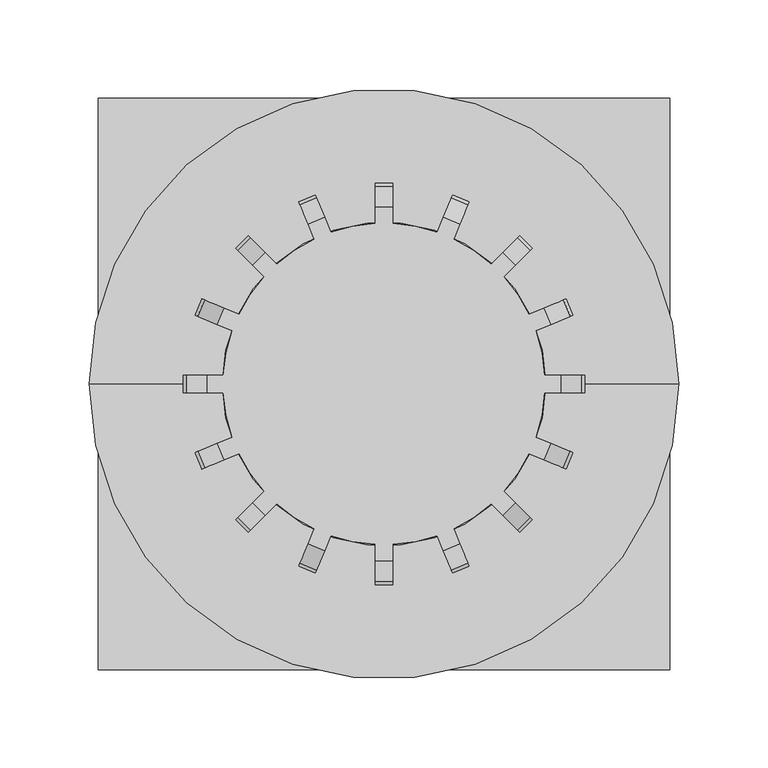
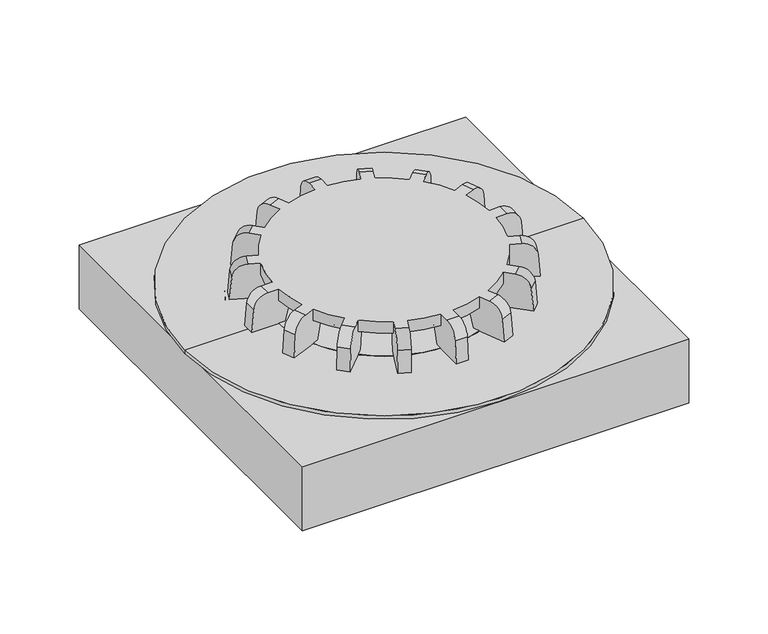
"""IFC4 building model written with IfcOpenShell, lengths in millimetres: flow terminal geometry, Pipelife - VRD - Wpust Hydromax z kołnierzem 75 : Pipelife - VRD - Wpust Hydromax z kołnierzem 75."""

from ifc_helpers import new_model, si_unit, point, frame, origin, origin_2d, place, context, project, spatial, polyline, circle_curve, ellipse_curve, trimmed, segment, composite_curve, outline, extrude, source, transform, mapped, element, save
from ifc_brep_helpers import plane_surface, cylinder_surface, revolved_surface, advanced_brep


def flow_terminal_c4a0d1e7(model_context):
    return source(origin(), model_context, "Body", "SolidModel", [
        extrude(outline(composite_curve([segment(trimmed(circle_curve(origin_2d(), 90.0), [point((0.0, -90.0))], [point((0.0, 90.0))], False, "CARTESIAN"), True, "CONTINUOUS"), segment(trimmed(circle_curve(origin_2d(), 90.0), [point((0.0, 90.0))], [point((0.0, -90.0))], False, "CARTESIAN"), True, "CONTINUOUS")], self_intersect=False)), frame((0.0, 0.0, -5.0), z_axis=(0.0, 0.0, 1.0), x_axis=(1.0, 0.0, 0.0)), (0.0, 0.0, 1.0), 5.0),
        advanced_brep(
        [(-89.4392053, 42.4588928, 30.0), (-93.2660396, 33.2200975, 30.0), (-84.9341593, 29.7689197, 30.0), (-89.8610038, 5.0, 30.0), (-98.879366, 5.0, 30.0), (-98.879366, -5.0, 30.0), (-89.8610038, -5.0, 30.0), (-84.9341593, -29.7689197, 30.0), (-93.2660396, -33.2200975, 30.0), (-89.4392053, -42.4588928, 30.0), (-81.107325, -39.007715, 30.0), (-67.076859, -60.0057912, 30.0), (-73.4538041, -66.3827363, 30.0), (-66.3827363, -73.4538041, 30.0), (-60.0057912, -67.076859, 30.0), (-39.007715, -81.107325, 30.0), (-42.4588928, -89.4392053, 30.0), (-33.2200975, -93.2660396, 30.0), (-29.7689197, -84.9341593, 30.0), (-5.0, -89.8610038, 30.0), (-5.0, -98.879366, 30.0), (5.0, -98.879366, 30.0), (5.0, -89.8610038, 30.0), (29.7689197, -84.9341593, 30.0), (33.2200975, -93.2660396, 30.0), (42.4588928, -89.4392053, 30.0), (39.007715, -81.107325, 30.0), (60.0057912, -67.076859, 30.0), (66.3827363, -73.4538041, 30.0), (73.4538041, -66.3827363, 30.0), (67.076859, -60.0057912, 30.0), (81.107325, -39.007715, 30.0), (89.4392053, -42.4588928, 30.0), (93.2660396, -33.2200975, 30.0), (84.9341593, -29.7689197, 30.0), (89.8610038, -5.0, 30.0), (98.879366, -5.0, 30.0), (98.879366, 5.0, 30.0), (89.8610038, 5.0, 30.0), (84.9341593, 29.7689197, 30.0), (93.2660396, 33.2200975, 30.0), (89.4392053, 42.4588928, 30.0), (81.107325, 39.007715, 30.0), (67.076859, 60.0057912, 30.0), (73.4538041, 66.3827363, 30.0), (66.3827363, 73.4538041, 30.0), (60.0057912, 67.076859, 30.0), (39.007715, 81.107325, 30.0), (42.4588928, 89.4392053, 30.0), (33.2200975, 93.2660396, 30.0), (29.7689197, 84.9341593, 30.0), (5.0, 89.8610038, 30.0), (5.0, 98.879366, 30.0), (-5.0, 98.879366, 30.0), (-5.0, 89.8610038, 30.0), (-29.7689197, 84.9341593, 30.0), (-33.2200975, 93.2660396, 30.0), (-42.4588928, 89.4392053, 30.0), (-39.007715, 81.107325, 30.0), (-60.0057912, 67.076859, 30.0), (-66.3827363, 73.4538041, 30.0), (-73.4538041, 66.3827363, 30.0), (-67.076859, 60.0057912, 30.0), (-81.107325, 39.007715, 30.0), (-78.9260419, 38.104198, 20.0), (-81.107325, 39.007715, 20.0), (-67.076859, 60.0057912, 20.0), (-65.4073773, 58.3363094, 20.0), (-59.8502365, 52.7791687, 20.0), (-52.7791687, 59.8502365, 20.0), (-58.3363094, 65.4073773, 20.0), (-60.0057912, 67.076859, 20.0), (-39.007715, 81.107325, 20.0), (-38.104198, 78.9260419, 20.0), (-35.0966951, 71.6652876, 20.0), (-25.8578998, 75.4921219, 20.0), (-28.8654027, 82.7528763, 20.0), (-29.7689197, 84.9341593, 20.0), (-5.0, 89.8610038, 20.0), (-5.0, 87.5, 20.0), (-5.0, 79.6410162, 20.0), (5.0, 79.6410162, 20.0), (5.0, 87.5, 20.0), (5.0, 89.8610038, 20.0), (29.7689197, 84.9341593, 20.0), (28.8654027, 82.7528763, 20.0), (25.8578998, 75.4921219, 20.0), (35.0966951, 71.6652876, 20.0), (38.104198, 78.9260419, 20.0), (39.007715, 81.107325, 20.0), (60.0057912, 67.076859, 20.0), (58.3363094, 65.4073773, 20.0), (52.7791687, 59.8502365, 20.0), (59.8502365, 52.7791687, 20.0), (65.4073773, 58.3363094, 20.0), (67.076859, 60.0057912, 20.0), (81.107325, 39.007715, 20.0), (78.9260419, 38.104198, 20.0), (71.6652876, 35.0966951, 20.0), (75.4921219, 25.8578998, 20.0), (82.7528763, 28.8654027, 20.0), (84.9341593, 29.7689197, 20.0), (89.8610038, 5.0, 20.0), (87.5, 5.0, 20.0), (79.6410162, 5.0, 20.0), (79.6410162, -5.0, 20.0), (87.5, -5.0, 20.0), (89.8610038, -5.0, 20.0), (84.9341593, -29.7689197, 20.0), (82.7528763, -28.8654027, 20.0), (75.4921219, -25.8578998, 20.0), (71.6652876, -35.0966951, 20.0), (78.9260419, -38.104198, 20.0), (81.107325, -39.007715, 20.0), (67.076859, -60.0057912, 20.0), (65.4073773, -58.3363094, 20.0), (59.8502365, -52.7791687, 20.0), (52.7791687, -59.8502365, 20.0), (58.3363094, -65.4073773, 20.0), (60.0057912, -67.076859, 20.0), (39.007715, -81.107325, 20.0), (38.104198, -78.9260419, 20.0), (35.0966951, -71.6652876, 20.0), (25.8578998, -75.4921219, 20.0), (28.8654027, -82.7528763, 20.0), (29.7689197, -84.9341593, 20.0), (5.0, -89.8610038, 20.0), (5.0, -87.5, 20.0), (5.0, -79.6410162, 20.0), (-5.0, -79.6410162, 20.0), (-5.0, -87.5, 20.0), (-5.0, -89.8610038, 20.0), (-29.7689197, -84.9341593, 20.0), (-28.8654027, -82.7528763, 20.0), (-25.8578998, -75.4921219, 20.0), (-35.0966951, -71.6652876, 20.0), (-38.104198, -78.9260419, 20.0), (-39.007715, -81.107325, 20.0), (-60.0057912, -67.076859, 20.0), (-58.3363094, -65.4073773, 20.0), (-52.7791687, -59.8502365, 20.0), (-59.8502365, -52.7791687, 20.0), (-65.4073773, -58.3363094, 20.0), (-67.076859, -60.0057912, 20.0), (-81.107325, -39.007715, 20.0), (-78.9260419, -38.104198, 20.0), (-71.6652876, -35.0966951, 20.0), (-75.4921219, -25.8578998, 20.0), (-82.7528763, -28.8654027, 20.0), (-84.9341593, -29.7689197, 20.0), (-89.8610038, -5.0, 20.0), (-87.5, -5.0, 20.0), (-79.6410162, -5.0, 20.0), (-79.6410162, 5.0, 20.0), (-87.5, 5.0, 20.0), (-89.8610038, 5.0, 20.0), (-84.9341593, 29.7689197, 20.0), (-82.7528763, 28.8654027, 20.0), (-75.4921219, 25.8578998, 20.0), (-71.6652876, 35.0966951, 20.0), (-100.483572, 47.0336193, 19.0458689), (-76.6163431, 37.1474894, 0.0), (-102.0230302, 47.6712838, 0.0), (-104.3104063, 37.794824, 19.0458689), (-105.8498646, 38.4324885, 0.0), (-80.4431774, 27.9086941, 0.0), (-110.8337024, -5.0, 19.0458689), (-112.5, -5.0, 0.0), (-85.0, -5.0, 0.0), (-110.8337024, 5.0, 19.0458689), (-85.0, 5.0, 0.0), (-112.5, 5.0, 0.0), (-100.483572, -47.0336193, 19.0458689), (-102.0230302, -47.6712838, 0.0), (-76.6163431, -37.1474894, 0.0), (-104.3104063, -37.794824, 19.0458689), (-80.4431774, -27.9086941, 0.0), (-105.8498646, -38.4324885, 0.0), (-74.8357286, -81.9067964, 19.0458689), (-76.013979, -83.0850468, 0.0), (-56.5685425, -63.6396103, 0.0), (-81.9067964, -74.8357286, 19.0458689), (-63.6396103, -56.5685425, 0.0), (-83.0850468, -76.013979, 0.0), (-47.0336193, -100.483572, 19.0458689), (-37.1474894, -76.6163431, 0.0), (-47.6712838, -102.0230302, 0.0), (-37.794824, -104.3104063, 19.0458689), (-38.4324885, -105.8498646, 0.0), (-27.9086941, -80.4431774, 0.0), (5.0, -110.8337024, 19.0458689), (5.0, -112.5, 0.0), (5.0, -85.0, 0.0), (-5.0, -110.8337024, 19.0458689), (-5.0, -85.0, 0.0), (-5.0, -112.5, 0.0), (47.0336193, -100.483572, 19.0458689), (47.6712838, -102.0230302, 0.0), (37.1474894, -76.6163431, 0.0), (37.794824, -104.3104063, 19.0458689), (27.9086941, -80.4431774, 0.0), (38.4324885, -105.8498646, 0.0), (74.8357286, -81.9067964, 19.0458689), (56.5685425, -63.6396103, 0.0), (76.013979, -83.0850468, 0.0), (81.9067964, -74.8357286, 19.0458689), (83.0850468, -76.013979, 0.0), (63.6396103, -56.5685425, 0.0), (100.483572, -47.0336193, 19.0458689), (76.6163431, -37.1474894, 0.0), (102.0230302, -47.6712838, 0.0), (104.3104063, -37.794824, 19.0458689), (105.8498646, -38.4324885, 0.0), (80.4431774, -27.9086941, 0.0), (110.8337024, -5.0, 19.0458689), (85.0, -5.0, 0.0), (112.5, -5.0, 0.0), (110.8337024, 5.0, 19.0458689), (112.5, 5.0, 0.0), (85.0, 5.0, 0.0), (100.483572, 47.0336193, 19.0458689), (102.0230302, 47.6712838, 0.0), (76.6163431, 37.1474894, 0.0), (104.3104063, 37.794824, 19.0458689), (80.4431774, 27.9086941, 0.0), (105.8498646, 38.4324885, 0.0), (74.8357286, 81.9067964, 19.0458689), (76.013979, 83.0850468, 0.0), (56.5685425, 63.6396103, 0.0), (81.9067964, 74.8357286, 19.0458689), (63.6396103, 56.5685425, 0.0), (83.0850468, 76.013979, 0.0), (47.0336193, 100.483572, 19.0458689), (37.1474894, 76.6163431, 0.0), (47.6712838, 102.0230302, 0.0), (37.794824, 104.3104063, 19.0458689), (38.4324885, 105.8498646, 0.0), (27.9086941, 80.4431774, 0.0), (5.0, 110.8337024, 19.0458689), (5.0, 85.0, 0.0), (5.0, 112.5, 0.0), (-5.0, 110.8337024, 19.0458689), (-5.0, 112.5, 0.0), (-5.0, 85.0, 0.0), (-47.0336193, 100.483572, 19.0458689), (-47.6712838, 102.0230302, 0.0), (-37.1474894, 76.6163431, 0.0), (-37.794824, 104.3104063, 19.0458689), (-27.9086941, 80.4431774, 0.0), (-38.4324885, 105.8498646, 0.0), (-74.8357286, 81.9067964, 19.0458689), (-56.5685425, 63.6396103, 0.0), (-76.013979, 83.0850468, 0.0), (-81.9067964, 74.8357286, 19.0458689), (-83.0850468, 76.013979, 0.0), (-63.6396103, 56.5685425, 0.0)],
        [
            (0, 1),
            (1, 2),
            (2, 3, circle_curve(frame((0.0, 0.0, 30.0), z_axis=(0.0, 0.0, 1.0), x_axis=(0.0, 1.0, 0.0)), 90.0)),
            (3, 4),
            (4, 5),
            (5, 6),
            (6, 7, circle_curve(frame((0.0, 0.0, 30.0), z_axis=(0.0, 0.0, 1.0), x_axis=(0.0, 1.0, 0.0)), 90.0)),
            (7, 8),
            (8, 9),
            (9, 10),
            (10, 11, circle_curve(frame((0.0, 0.0, 30.0), z_axis=(0.0, 0.0, 1.0), x_axis=(0.0, 1.0, 0.0)), 90.0)),
            (11, 12),
            (12, 13),
            (13, 14),
            (14, 15, circle_curve(frame((0.0, 0.0, 30.0), z_axis=(0.0, 0.0, 1.0), x_axis=(0.0, 1.0, 0.0)), 90.0)),
            (15, 16),
            (16, 17),
            (17, 18),
            (18, 19, circle_curve(frame((0.0, 0.0, 30.0), z_axis=(0.0, 0.0, 1.0), x_axis=(0.0, 1.0, 0.0)), 90.0)),
            (19, 20),
            (20, 21),
            (21, 22),
            (22, 23, circle_curve(frame((0.0, 0.0, 30.0), z_axis=(0.0, 0.0, 1.0), x_axis=(0.0, 1.0, 0.0)), 90.0)),
            (23, 24),
            (24, 25),
            (25, 26),
            (26, 27, circle_curve(frame((0.0, 0.0, 30.0), z_axis=(0.0, 0.0, 1.0), x_axis=(0.0, 1.0, 0.0)), 90.0)),
            (27, 28),
            (28, 29),
            (29, 30),
            (30, 31, circle_curve(frame((0.0, 0.0, 30.0), z_axis=(0.0, 0.0, 1.0), x_axis=(0.0, 1.0, 0.0)), 90.0)),
            (31, 32),
            (32, 33),
            (33, 34),
            (34, 35, circle_curve(frame((0.0, 0.0, 30.0), z_axis=(0.0, 0.0, 1.0), x_axis=(0.0, 1.0, 0.0)), 90.0)),
            (35, 36),
            (36, 37),
            (37, 38),
            (38, 39, circle_curve(frame((0.0, 0.0, 30.0), z_axis=(0.0, 0.0, 1.0), x_axis=(0.0, 1.0, 0.0)), 90.0)),
            (39, 40),
            (40, 41),
            (41, 42),
            (42, 43, circle_curve(frame((0.0, 0.0, 30.0), z_axis=(0.0, 0.0, 1.0), x_axis=(0.0, 1.0, 0.0)), 90.0)),
            (43, 44),
            (44, 45),
            (45, 46),
            (46, 47, circle_curve(frame((0.0, 0.0, 30.0), z_axis=(0.0, 0.0, 1.0), x_axis=(0.0, 1.0, 0.0)), 90.0)),
            (47, 48),
            (48, 49),
            (49, 50),
            (50, 51, circle_curve(frame((0.0, 0.0, 30.0), z_axis=(0.0, 0.0, 1.0), x_axis=(0.0, 1.0, 0.0)), 90.0)),
            (51, 52),
            (52, 53),
            (53, 54),
            (54, 55, circle_curve(frame((0.0, 0.0, 30.0), z_axis=(0.0, 0.0, 1.0), x_axis=(0.0, 1.0, 0.0)), 90.0)),
            (55, 56),
            (56, 57),
            (57, 58),
            (58, 59, circle_curve(frame((0.0, 0.0, 30.0), z_axis=(0.0, 0.0, 1.0), x_axis=(0.0, 1.0, 0.0)), 90.0)),
            (59, 60),
            (60, 61),
            (61, 62),
            (62, 63, circle_curve(frame((0.0, 0.0, 30.0), z_axis=(0.0, 0.0, 1.0), x_axis=(0.0, 1.0, 0.0)), 90.0)),
            (63, 0),
            (64, 65),
            (65, 66, circle_curve(frame((0.0, 0.0, 20.0), z_axis=(0.0, 0.0, -1.0), x_axis=(0.0, 1.0, 0.0)), 90.0)),
            (66, 67),
            (67, 68),
            (68, 69),
            (69, 70),
            (70, 71),
            (71, 72, circle_curve(frame((0.0, 0.0, 20.0), z_axis=(0.0, 0.0, -1.0), x_axis=(0.0, 1.0, 0.0)), 90.0)),
            (72, 73),
            (73, 74),
            (74, 75),
            (75, 76),
            (76, 77),
            (77, 78, circle_curve(frame((0.0, 0.0, 20.0), z_axis=(0.0, 0.0, -1.0), x_axis=(0.0, 1.0, 0.0)), 90.0)),
            (78, 79),
            (79, 80),
            (80, 81),
            (81, 82),
            (82, 83),
            (83, 84, circle_curve(frame((0.0, 0.0, 20.0), z_axis=(0.0, 0.0, -1.0), x_axis=(0.0, 1.0, 0.0)), 90.0)),
            (84, 85),
            (85, 86),
            (86, 87),
            (87, 88),
            (88, 89),
            (89, 90, circle_curve(frame((0.0, 0.0, 20.0), z_axis=(0.0, 0.0, -1.0), x_axis=(0.0, 1.0, 0.0)), 90.0)),
            (90, 91),
            (91, 92),
            (92, 93),
            (93, 94),
            (94, 95),
            (95, 96, circle_curve(frame((0.0, 0.0, 20.0), z_axis=(0.0, 0.0, -1.0), x_axis=(0.0, 1.0, 0.0)), 90.0)),
            (96, 97),
            (97, 98),
            (98, 99),
            (99, 100),
            (100, 101),
            (101, 102, circle_curve(frame((0.0, 0.0, 20.0), z_axis=(0.0, 0.0, -1.0), x_axis=(0.0, 1.0, 0.0)), 90.0)),
            (102, 103),
            (103, 104),
            (104, 105),
            (105, 106),
            (106, 107),
            (107, 108, circle_curve(frame((0.0, 0.0, 20.0), z_axis=(0.0, 0.0, -1.0), x_axis=(0.0, 1.0, 0.0)), 90.0)),
            (108, 109),
            (109, 110),
            (110, 111),
            (111, 112),
            (112, 113),
            (113, 114, circle_curve(frame((0.0, 0.0, 20.0), z_axis=(0.0, 0.0, -1.0), x_axis=(0.0, 1.0, 0.0)), 90.0)),
            (114, 115),
            (115, 116),
            (116, 117),
            (117, 118),
            (118, 119),
            (119, 120, circle_curve(frame((0.0, 0.0, 20.0), z_axis=(0.0, 0.0, -1.0), x_axis=(0.0, 1.0, 0.0)), 90.0)),
            (120, 121),
            (121, 122),
            (122, 123),
            (123, 124),
            (124, 125),
            (125, 126, circle_curve(frame((0.0, 0.0, 20.0), z_axis=(0.0, 0.0, -1.0), x_axis=(0.0, 1.0, 0.0)), 90.0)),
            (126, 127),
            (127, 128),
            (128, 129),
            (129, 130),
            (130, 131),
            (131, 132, circle_curve(frame((0.0, 0.0, 20.0), z_axis=(0.0, 0.0, -1.0), x_axis=(0.0, 1.0, 0.0)), 90.0)),
            (132, 133),
            (133, 134),
            (134, 135),
            (135, 136),
            (136, 137),
            (137, 138, circle_curve(frame((0.0, 0.0, 20.0), z_axis=(0.0, 0.0, -1.0), x_axis=(0.0, 1.0, 0.0)), 90.0)),
            (138, 139),
            (139, 140),
            (140, 141),
            (141, 142),
            (142, 143),
            (143, 144, circle_curve(frame((0.0, 0.0, 20.0), z_axis=(0.0, 0.0, -1.0), x_axis=(0.0, 1.0, 0.0)), 90.0)),
            (144, 145),
            (145, 146),
            (146, 147),
            (147, 148),
            (148, 149),
            (149, 150, circle_curve(frame((0.0, 0.0, 20.0), z_axis=(0.0, 0.0, -1.0), x_axis=(0.0, 1.0, 0.0)), 90.0)),
            (150, 151),
            (151, 152),
            (152, 153),
            (153, 154),
            (154, 155),
            (155, 156, circle_curve(frame((0.0, 0.0, 20.0), z_axis=(0.0, 0.0, -1.0), x_axis=(0.0, 1.0, 0.0)), 90.0)),
            (156, 157),
            (157, 158),
            (158, 159),
            (159, 64),
            (22, 126),
            (125, 23),
            (26, 120),
            (119, 27),
            (30, 114),
            (113, 31),
            (34, 108),
            (107, 35),
            (38, 102),
            (101, 39),
            (42, 96),
            (95, 43),
            (46, 90),
            (89, 47),
            (50, 84),
            (83, 51),
            (65, 63),
            (62, 66),
            (2, 156),
            (155, 3),
            (6, 150),
            (149, 7),
            (10, 144),
            (143, 11),
            (14, 138),
            (137, 15),
            (18, 132),
            (131, 19),
            (54, 78),
            (77, 55),
            (58, 72),
            (71, 59),
            (160, 0, circle_curve(frame((-89.4392053, 42.4588928, 18.0), z_axis=(0.3826834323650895, 0.9238795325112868, 0.0), x_axis=(0.9238795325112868, -0.3826834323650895, 0.0)), 12.0)),
            (159, 161),
            (161, 162),
            (162, 160),
            (163, 164),
            (164, 165),
            (165, 158),
            (1, 163, circle_curve(frame((-93.2660396, 33.2200975, 18.0), z_axis=(-0.3826834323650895, -0.9238795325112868, 0.0), x_axis=(0.9238795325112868, -0.3826834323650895, 0.0)), 12.0)),
            (162, 164),
            (163, 160),
            (161, 165),
            (166, 167),
            (167, 168),
            (168, 152),
            (5, 166, circle_curve(frame((-98.879366, -5.0, 18.0), z_axis=(0.0, -1.0, 0.0), x_axis=(1.0, 0.0, 0.0)), 12.0)),
            (169, 4, circle_curve(frame((-98.879366, 5.0, 18.0), z_axis=(0.0, 1.0, 0.0), x_axis=(1.0, 0.0, 0.0)), 12.0)),
            (153, 170),
            (170, 171),
            (171, 169),
            (166, 169),
            (171, 167),
            (170, 168),
            (172, 173),
            (173, 174),
            (174, 146),
            (9, 172, circle_curve(frame((-89.4392053, -42.4588928, 18.0), z_axis=(0.3826834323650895, -0.9238795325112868, 0.0), x_axis=(0.9238795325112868, 0.3826834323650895, 0.0)), 12.0)),
            (175, 8, circle_curve(frame((-93.2660396, -33.2200975, 18.0), z_axis=(-0.3826834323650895, 0.9238795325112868, 0.0), x_axis=(0.9238795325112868, 0.3826834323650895, 0.0)), 12.0)),
            (147, 176),
            (176, 177),
            (177, 175),
            (172, 175),
            (177, 173),
            (176, 174),
            (178, 179),
            (179, 180),
            (180, 140),
            (13, 178, circle_curve(frame((-66.3827363, -73.4538041, 18.0), z_axis=(0.707106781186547, -0.7071067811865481, 0.0), x_axis=(0.7071067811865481, 0.707106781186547, 0.0)), 12.0)),
            (181, 12, circle_curve(frame((-73.4538041, -66.3827363, 18.0), z_axis=(-0.707106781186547, 0.7071067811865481, 0.0), x_axis=(0.7071067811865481, 0.707106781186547, 0.0)), 12.0)),
            (141, 182),
            (182, 183),
            (183, 181),
            (178, 181),
            (183, 179),
            (182, 180),
            (184, 16, circle_curve(frame((-42.4588928, -89.4392053, 18.0), z_axis=(-0.9238795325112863, 0.38268343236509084, 0.0), x_axis=(0.38268343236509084, 0.9238795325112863, 0.0)), 12.0)),
            (135, 185),
            (185, 186),
            (186, 184),
            (187, 188),
            (188, 189),
            (189, 134),
            (17, 187, circle_curve(frame((-33.2200975, -93.2660396, 18.0), z_axis=(0.9238795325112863, -0.38268343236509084, 0.0), x_axis=(0.38268343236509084, 0.9238795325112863, 0.0)), 12.0)),
            (186, 188),
            (187, 184),
            (185, 189),
            (190, 191),
            (191, 192),
            (192, 128),
            (21, 190, circle_curve(frame((5.0, -98.879366, 18.0), z_axis=(1.0, 0.0, 0.0), x_axis=(0.0, 1.0, 0.0)), 12.0)),
            (193, 20, circle_curve(frame((-5.0, -98.879366, 18.0), z_axis=(-1.0, 0.0, 0.0), x_axis=(0.0, 1.0, 0.0)), 12.0)),
            (129, 194),
            (194, 195),
            (195, 193),
            (190, 193),
            (195, 191),
            (194, 192),
            (196, 197),
            (197, 198),
            (198, 122),
            (25, 196, circle_curve(frame((42.4588928, -89.4392053, 18.0), z_axis=(0.9238795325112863, 0.38268343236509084, 0.0), x_axis=(-0.38268343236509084, 0.9238795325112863, 0.0)), 12.0)),
            (199, 24, circle_curve(frame((33.2200975, -93.2660396, 18.0), z_axis=(-0.9238795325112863, -0.38268343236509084, 0.0), x_axis=(-0.38268343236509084, 0.9238795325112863, 0.0)), 12.0)),
            (123, 200),
            (200, 201),
            (201, 199),
            (196, 199),
            (201, 197),
            (200, 198),
            (202, 28, circle_curve(frame((66.3827363, -73.4538041, 18.0), z_axis=(-0.707106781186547, -0.7071067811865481, 0.0), x_axis=(-0.7071067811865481, 0.707106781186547, 0.0)), 12.0)),
            (117, 203),
            (203, 204),
            (204, 202),
            (205, 206),
            (206, 207),
            (207, 116),
            (29, 205, circle_curve(frame((73.4538041, -66.3827363, 18.0), z_axis=(0.707106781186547, 0.7071067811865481, 0.0), x_axis=(-0.7071067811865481, 0.707106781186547, 0.0)), 12.0)),
            (204, 206),
            (205, 202),
            (203, 207),
            (208, 32, circle_curve(frame((89.4392053, -42.4588928, 18.0), z_axis=(-0.3826834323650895, -0.9238795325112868, 0.0), x_axis=(-0.9238795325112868, 0.3826834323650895, 0.0)), 12.0)),
            (111, 209),
            (209, 210),
            (210, 208),
            (211, 212),
            (212, 213),
            (213, 110),
            (33, 211, circle_curve(frame((93.2660396, -33.2200975, 18.0), z_axis=(0.3826834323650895, 0.9238795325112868, 0.0), x_axis=(-0.9238795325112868, 0.3826834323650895, 0.0)), 12.0)),
            (210, 212),
            (211, 208),
            (209, 213),
            (214, 36, circle_curve(frame((98.879366, -5.0, 18.0), z_axis=(0.0, -1.0, 0.0), x_axis=(-1.0, 0.0, 0.0)), 12.0)),
            (105, 215),
            (215, 216),
            (216, 214),
            (217, 218),
            (218, 219),
            (219, 104),
            (37, 217, circle_curve(frame((98.879366, 5.0, 18.0), z_axis=(0.0, 1.0, 0.0), x_axis=(-1.0, 0.0, 0.0)), 12.0)),
            (216, 218),
            (217, 214),
            (215, 219),
            (220, 221),
            (221, 222),
            (222, 98),
            (41, 220, circle_curve(frame((89.4392053, 42.4588928, 18.0), z_axis=(-0.3826834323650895, 0.9238795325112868, 0.0), x_axis=(-0.9238795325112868, -0.3826834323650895, 0.0)), 12.0)),
            (223, 40, circle_curve(frame((93.2660396, 33.2200975, 18.0), z_axis=(0.3826834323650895, -0.9238795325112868, 0.0), x_axis=(-0.9238795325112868, -0.3826834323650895, 0.0)), 12.0)),
            (99, 224),
            (224, 225),
            (225, 223),
            (220, 223),
            (225, 221),
            (224, 222),
            (226, 227),
            (227, 228),
            (228, 92),
            (45, 226, circle_curve(frame((66.3827363, 73.4538041, 18.0), z_axis=(-0.707106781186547, 0.7071067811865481, 0.0), x_axis=(-0.7071067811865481, -0.707106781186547, 0.0)), 12.0)),
            (229, 44, circle_curve(frame((73.4538041, 66.3827363, 18.0), z_axis=(0.707106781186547, -0.7071067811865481, 0.0), x_axis=(-0.7071067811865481, -0.707106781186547, 0.0)), 12.0)),
            (93, 230),
            (230, 231),
            (231, 229),
            (226, 229),
            (231, 227),
            (230, 228),
            (232, 48, circle_curve(frame((42.4588928, 89.4392053, 18.0), z_axis=(0.9238795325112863, -0.38268343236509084, 0.0), x_axis=(-0.38268343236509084, -0.9238795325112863, 0.0)), 12.0)),
            (87, 233),
            (233, 234),
            (234, 232),
            (235, 236),
            (236, 237),
            (237, 86),
            (49, 235, circle_curve(frame((33.2200975, 93.2660396, 18.0), z_axis=(-0.9238795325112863, 0.38268343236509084, 0.0), x_axis=(-0.38268343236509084, -0.9238795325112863, 0.0)), 12.0)),
            (234, 236),
            (235, 232),
            (233, 237),
            (238, 52, circle_curve(frame((5.0, 98.879366, 18.0), z_axis=(1.0, 0.0, 0.0), x_axis=(0.0, -1.0, 0.0)), 12.0)),
            (81, 239),
            (239, 240),
            (240, 238),
            (241, 242),
            (242, 243),
            (243, 80),
            (53, 241, circle_curve(frame((-5.0, 98.879366, 18.0), z_axis=(-1.0, 0.0, 0.0), x_axis=(0.0, -1.0, 0.0)), 12.0)),
            (240, 242),
            (241, 238),
            (239, 243),
            (244, 245),
            (245, 246),
            (246, 74),
            (57, 244, circle_curve(frame((-42.4588928, 89.4392053, 18.0), z_axis=(-0.9238795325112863, -0.38268343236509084, 0.0), x_axis=(0.38268343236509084, -0.9238795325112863, 0.0)), 12.0)),
            (247, 56, circle_curve(frame((-33.2200975, 93.2660396, 18.0), z_axis=(0.9238795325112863, 0.38268343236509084, 0.0), x_axis=(0.38268343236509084, -0.9238795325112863, 0.0)), 12.0)),
            (75, 248),
            (248, 249),
            (249, 247),
            (244, 247),
            (249, 245),
            (248, 246),
            (250, 60, circle_curve(frame((-66.3827363, 73.4538041, 18.0), z_axis=(0.707106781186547, 0.7071067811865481, 0.0), x_axis=(0.7071067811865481, -0.707106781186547, 0.0)), 12.0)),
            (69, 251),
            (251, 252),
            (252, 250),
            (253, 254),
            (254, 255),
            (255, 68),
            (61, 253, circle_curve(frame((-73.4538041, 66.3827363, 18.0), z_axis=(-0.707106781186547, -0.7071067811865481, 0.0), x_axis=(0.7071067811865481, -0.707106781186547, 0.0)), 12.0)),
            (252, 254),
            (253, 250),
            (251, 255),
        ],
        [
            plane_surface(frame((0.0, 90.0, 30.0), z_axis=(0.0, 0.0, 1.0), x_axis=(-1.0, 0.0, 0.0))),
            plane_surface(frame((0.0, 90.0, 20.0), z_axis=(0.0, 0.0, -1.0), x_axis=(1.0, 0.0, 0.0))),
            cylinder_surface(frame((0.0, 0.0, 20.0), z_axis=(0.0, 0.0, 1.0), x_axis=(0.0, 1.0, 0.0)), 90.0),
            plane_surface(frame((-78.3526509, 37.8666916, 18.0), z_axis=(0.3826834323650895, 0.923879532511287, 0.0), x_axis=(0.0, 0.0, -1.0))),
            plane_surface(frame((-82.1794852, 28.6278963, 18.0), z_axis=(-0.3826834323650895, -0.923879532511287, 0.0), x_axis=(0.0, 0.0, 1.0))),
            plane_surface(frame((-102.0230302, 47.6712838, 0.0), z_axis=(-0.9203638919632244, 0.38122720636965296, 0.08715574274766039), x_axis=(-0.3826834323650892, -0.923879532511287, 0.0))),
            plane_surface(frame((-76.6163431, 37.1474894, 0.0), z_axis=(0.0, 0.0, -1.0), x_axis=(-0.3826834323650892, -0.923879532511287, 0.0))),
            plane_surface(frame((-71.6652876, 35.0966951, 20.0), z_axis=(0.8923991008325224, -0.36964381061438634, -0.25881904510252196), x_axis=(-0.3826834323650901, -0.9238795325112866, 0.0))),
            cylinder_surface(frame((-93.2660396, 33.2200975, 18.0), z_axis=(0.3826834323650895, 0.9238795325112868, 0.0), x_axis=(0.9238795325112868, -0.3826834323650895, 0.0)), 12.0),
            plane_surface(frame((-112.5, -5.0, 0.0), z_axis=(0.0, -1.0, 0.0), x_axis=(-0.08715574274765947, 0.0, -0.9961946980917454))),
            plane_surface(frame((-112.5, 5.0, 0.0), z_axis=(0.0, 1.0, 0.0), x_axis=(0.08715574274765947, 0.0, 0.9961946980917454))),
            plane_surface(frame((-110.8337024, -5.0, 19.0458689), z_axis=(-0.9961946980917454, 0.0, 0.08715574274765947), x_axis=(0.0, 1.0, 0.0))),
            plane_surface(frame((-112.5, -5.0, 0.0), z_axis=(0.0, 0.0, -1.0), x_axis=(0.0, 1.0, 0.0))),
            plane_surface(frame((-85.0, -5.0, 0.0), z_axis=(0.9659258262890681, 0.0, -0.2588190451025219), x_axis=(0.0, 1.0, 0.0))),
            cylinder_surface(frame((-98.879366, 5.0, 18.0), z_axis=(0.0, -1.0, 0.0), x_axis=(1.0, 0.0, 0.0)), 12.0),
            plane_surface(frame((-102.0230302, -47.6712838, 0.0), z_axis=(0.3826834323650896, -0.9238795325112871, 0.0), x_axis=(-0.08052140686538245, -0.033353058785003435, -0.9961946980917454))),
            plane_surface(frame((-105.8498646, -38.4324885, 0.0), z_axis=(-0.3826834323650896, 0.9238795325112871, 0.0), x_axis=(0.08052140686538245, 0.033353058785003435, 0.9961946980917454))),
            plane_surface(frame((-100.483572, -47.0336193, 19.0458689), z_axis=(-0.9203638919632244, -0.38122720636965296, 0.08715574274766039), x_axis=(-0.3826834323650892, 0.923879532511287, 0.0))),
            plane_surface(frame((-102.0230302, -47.6712838, 0.0), z_axis=(0.0, 0.0, -1.0), x_axis=(-0.3826834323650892, 0.923879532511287, 0.0))),
            plane_surface(frame((-76.6163431, -37.1474894, 0.0), z_axis=(0.8923991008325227, 0.36964381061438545, -0.2588190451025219), x_axis=(-0.3826834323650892, 0.923879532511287, 0.0))),
            cylinder_surface(frame((-93.2660396, -33.2200975, 18.0), z_axis=(0.3826834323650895, -0.9238795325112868, 0.0), x_axis=(0.9238795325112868, 0.3826834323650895, 0.0)), 12.0),
            plane_surface(frame((-76.013979, -83.0850468, 0.0), z_axis=(0.7071067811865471, -0.7071067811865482, 0.0), x_axis=(-0.061628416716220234, -0.06162841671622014, -0.9961946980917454))),
            plane_surface(frame((-83.0850468, -76.013979, 0.0), z_axis=(-0.7071067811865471, 0.7071067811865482, 0.0), x_axis=(0.061628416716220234, 0.06162841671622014, 0.9961946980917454))),
            plane_surface(frame((-74.8357286, -81.9067964, 19.0458689), z_axis=(-0.704416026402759, -0.7044160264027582, 0.08715574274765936), x_axis=(-0.7071067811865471, 0.7071067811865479, 0.0))),
            plane_surface(frame((-76.013979, -83.0850468, 0.0), z_axis=(0.0, 0.0, -1.0), x_axis=(-0.7071067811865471, 0.7071067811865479, 0.0))),
            plane_surface(frame((-56.5685425, -63.6396103, 0.0), z_axis=(0.6830127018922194, 0.6830127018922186, -0.2588190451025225), x_axis=(-0.7071067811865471, 0.7071067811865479, 0.0))),
            cylinder_surface(frame((-73.4538041, -66.3827363, 18.0), z_axis=(0.707106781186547, -0.7071067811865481, 0.0), x_axis=(0.7071067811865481, 0.707106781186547, 0.0)), 12.0),
            plane_surface(frame((-37.8666916, -78.3526509, 18.0), z_axis=(-0.9238795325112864, 0.38268343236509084, 0.0), x_axis=(0.0, 0.0, -1.0))),
            plane_surface(frame((-28.6278963, -82.1794852, 18.0), z_axis=(0.9238795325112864, -0.38268343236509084, 0.0), x_axis=(0.0, 0.0, 1.0))),
            plane_surface(frame((-47.6712838, -102.0230302, 0.0), z_axis=(-0.3812272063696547, -0.9203638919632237, 0.08715574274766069), x_axis=(0.9238795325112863, -0.382683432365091, 0.0))),
            plane_surface(frame((-37.1474894, -76.6163431, 0.0), z_axis=(0.0, 0.0, -1.0), x_axis=(0.9238795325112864, -0.38268343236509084, 0.0))),
            plane_surface(frame((-35.0966951, -71.6652876, 20.0), z_axis=(0.36964381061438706, 0.8923991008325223, -0.2588190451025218), x_axis=(0.9238795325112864, -0.38268343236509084, 0.0))),
            cylinder_surface(frame((-33.2200975, -93.2660396, 18.0), z_axis=(-0.9238795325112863, 0.38268343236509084, 0.0), x_axis=(0.38268343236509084, 0.9238795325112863, 0.0)), 12.0),
            plane_surface(frame((5.0, -112.5, 0.0), z_axis=(1.0, 0.0, 0.0), x_axis=(0.0, -0.08715574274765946, -0.9961946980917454))),
            plane_surface(frame((-5.0, -112.5, 0.0), z_axis=(-1.0, 0.0, 0.0), x_axis=(0.0, 0.08715574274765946, 0.9961946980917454))),
            plane_surface(frame((5.0, -110.8337024, 19.0458689), z_axis=(0.0, -0.9961946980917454, 0.08715574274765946), x_axis=(-1.0, 0.0, 0.0))),
            plane_surface(frame((5.0, -112.5, 0.0), z_axis=(0.0, 0.0, -1.0), x_axis=(-1.0, 0.0, 0.0))),
            plane_surface(frame((5.0, -85.0, 0.0), z_axis=(0.0, 0.9659258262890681, -0.25881904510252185), x_axis=(-1.0, 0.0, 0.0))),
            cylinder_surface(frame((-5.0, -98.879366, 18.0), z_axis=(1.0, 0.0, 0.0), x_axis=(0.0, 1.0, 0.0)), 12.0),
            plane_surface(frame((47.6712838, -102.0230302, 0.0), z_axis=(0.9238795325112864, 0.3826834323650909, 0.0), x_axis=(0.033353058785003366, -0.08052140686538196, -0.9961946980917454))),
            plane_surface(frame((38.4324885, -105.8498646, 0.0), z_axis=(-0.9238795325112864, -0.3826834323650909, 0.0), x_axis=(-0.033353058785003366, 0.08052140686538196, 0.9961946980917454))),
            plane_surface(frame((47.0336193, -100.483572, 19.0458689), z_axis=(0.38122720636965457, -0.9203638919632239, 0.0871557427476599), x_axis=(-0.9238795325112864, -0.38268343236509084, 0.0))),
            plane_surface(frame((47.6712838, -102.0230302, 0.0), z_axis=(0.0, 0.0, -1.0000000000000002), x_axis=(-0.9238795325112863, -0.382683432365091, 0.0))),
            plane_surface(frame((37.1474894, -76.6163431, 0.0), z_axis=(-0.3696438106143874, 0.8923991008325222, -0.25881904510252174), x_axis=(-0.9238795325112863, -0.38268343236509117, 0.0))),
            cylinder_surface(frame((33.2200975, -93.2660396, 18.0), z_axis=(0.9238795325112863, 0.38268343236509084, 0.0), x_axis=(-0.38268343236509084, 0.9238795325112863, 0.0)), 12.0),
            plane_surface(frame((57.8974549, -64.9685228, 18.0), z_axis=(-0.707106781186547, -0.7071067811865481, 0.0), x_axis=(0.0, 0.0, -1.0))),
            plane_surface(frame((64.9685228, -57.8974549, 18.0), z_axis=(0.707106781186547, 0.7071067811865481, 0.0), x_axis=(0.0, 0.0, 1.0))),
            plane_surface(frame((76.013979, -83.0850468, 0.0), z_axis=(0.7044160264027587, -0.7044160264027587, 0.08715574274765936), x_axis=(0.7071067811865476, 0.7071067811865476, 0.0))),
            plane_surface(frame((56.5685425, -63.6396103, 0.0), z_axis=(0.0, 0.0, -1.0), x_axis=(0.7071067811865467, 0.7071067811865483, 0.0))),
            plane_surface(frame((52.7791687, -59.8502365, 20.0), z_axis=(-0.6830127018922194, 0.6830127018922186, -0.2588190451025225), x_axis=(0.7071067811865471, 0.7071067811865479, 0.0))),
            cylinder_surface(frame((73.4538041, -66.3827363, 18.0), z_axis=(-0.707106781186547, -0.7071067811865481, 0.0), x_axis=(-0.7071067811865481, 0.707106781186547, 0.0)), 12.0),
            plane_surface(frame((78.3526509, -37.8666916, 18.0), z_axis=(-0.3826834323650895, -0.923879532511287, 0.0), x_axis=(0.0, 0.0, -1.0))),
            plane_surface(frame((82.1794852, -28.6278963, 18.0), z_axis=(0.3826834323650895, 0.923879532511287, 0.0), x_axis=(0.0, 0.0, 1.0))),
            plane_surface(frame((102.0230302, -47.6712838, 0.0), z_axis=(0.9203638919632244, -0.38122720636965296, 0.08715574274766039), x_axis=(0.3826834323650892, 0.923879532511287, 0.0))),
            plane_surface(frame((76.6163431, -37.1474894, 0.0), z_axis=(0.0, 0.0, -1.0), x_axis=(0.3826834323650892, 0.923879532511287, 0.0))),
            plane_surface(frame((71.6652876, -35.0966951, 20.0), z_axis=(-0.8923991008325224, 0.36964381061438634, -0.25881904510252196), x_axis=(0.3826834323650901, 0.9238795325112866, 0.0))),
            cylinder_surface(frame((93.2660396, -33.2200975, 18.0), z_axis=(-0.3826834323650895, -0.9238795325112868, 0.0), x_axis=(-0.9238795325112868, 0.3826834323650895, 0.0)), 12.0),
            plane_surface(frame((86.879366, -5.0, 18.0), z_axis=(0.0, -1.0, 0.0), x_axis=(0.0, 0.0, -1.0))),
            plane_surface(frame((86.879366, 5.0, 18.0), z_axis=(0.0, 1.0, 0.0), x_axis=(0.0, 0.0, 1.0))),
            plane_surface(frame((112.5, -5.0, 0.0), z_axis=(0.9961946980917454, 0.0, 0.08715574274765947), x_axis=(0.0, 1.0, 0.0))),
            plane_surface(frame((85.0, -5.0, 0.0), z_axis=(0.0, 0.0, -1.0), x_axis=(0.0, 1.0, 0.0))),
            plane_surface(frame((79.6410162, -5.0, 20.0), z_axis=(-0.9659258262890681, 0.0, -0.2588190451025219), x_axis=(0.0, 1.0, 0.0))),
            cylinder_surface(frame((98.879366, 5.0, 18.0), z_axis=(0.0, -1.0, 0.0), x_axis=(-1.0, 0.0, 0.0)), 12.0),
            plane_surface(frame((102.0230302, 47.6712838, 0.0), z_axis=(-0.3826834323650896, 0.9238795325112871, 0.0), x_axis=(0.08052140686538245, 0.033353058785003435, -0.9961946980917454))),
            plane_surface(frame((105.8498646, 38.4324885, 0.0), z_axis=(0.3826834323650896, -0.9238795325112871, 0.0), x_axis=(-0.08052140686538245, -0.033353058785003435, 0.9961946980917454))),
            plane_surface(frame((100.483572, 47.0336193, 19.0458689), z_axis=(0.9203638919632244, 0.38122720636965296, 0.08715574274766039), x_axis=(0.3826834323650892, -0.923879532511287, 0.0))),
            plane_surface(frame((102.0230302, 47.6712838, 0.0), z_axis=(0.0, 0.0, -1.0), x_axis=(0.3826834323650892, -0.923879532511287, 0.0))),
            plane_surface(frame((76.6163431, 37.1474894, 0.0), z_axis=(-0.8923991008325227, -0.36964381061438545, -0.2588190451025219), x_axis=(0.3826834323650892, -0.923879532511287, 0.0))),
            cylinder_surface(frame((93.2660396, 33.2200975, 18.0), z_axis=(-0.3826834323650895, 0.9238795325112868, 0.0), x_axis=(-0.9238795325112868, -0.3826834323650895, 0.0)), 12.0),
            plane_surface(frame((76.013979, 83.0850468, 0.0), z_axis=(-0.7071067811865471, 0.7071067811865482, 0.0), x_axis=(0.061628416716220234, 0.06162841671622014, -0.9961946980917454))),
            plane_surface(frame((83.0850468, 76.013979, 0.0), z_axis=(0.7071067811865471, -0.7071067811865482, 0.0), x_axis=(-0.061628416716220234, -0.06162841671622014, 0.9961946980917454))),
            plane_surface(frame((74.8357286, 81.9067964, 19.0458689), z_axis=(0.704416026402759, 0.7044160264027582, 0.08715574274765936), x_axis=(0.7071067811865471, -0.7071067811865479, 0.0))),
            plane_surface(frame((76.013979, 83.0850468, 0.0), z_axis=(0.0, 0.0, -1.0), x_axis=(0.7071067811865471, -0.7071067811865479, 0.0))),
            plane_surface(frame((56.5685425, 63.6396103, 0.0), z_axis=(-0.6830127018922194, -0.6830127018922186, -0.2588190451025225), x_axis=(0.7071067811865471, -0.7071067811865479, 0.0))),
            cylinder_surface(frame((73.4538041, 66.3827363, 18.0), z_axis=(-0.707106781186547, 0.7071067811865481, 0.0), x_axis=(-0.7071067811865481, -0.707106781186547, 0.0)), 12.0),
            plane_surface(frame((37.8666916, 78.3526509, 18.0), z_axis=(0.9238795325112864, -0.38268343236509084, 0.0), x_axis=(0.0, 0.0, -1.0))),
            plane_surface(frame((28.6278963, 82.1794852, 18.0), z_axis=(-0.9238795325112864, 0.38268343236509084, 0.0), x_axis=(0.0, 0.0, 1.0))),
            plane_surface(frame((47.6712838, 102.0230302, 0.0), z_axis=(0.3812272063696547, 0.9203638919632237, 0.08715574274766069), x_axis=(-0.9238795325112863, 0.382683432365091, 0.0))),
            plane_surface(frame((37.1474894, 76.6163431, 0.0), z_axis=(0.0, 0.0, -1.0), x_axis=(-0.9238795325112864, 0.38268343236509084, 0.0))),
            plane_surface(frame((35.0966951, 71.6652876, 20.0), z_axis=(-0.36964381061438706, -0.8923991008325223, -0.2588190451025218), x_axis=(-0.9238795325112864, 0.38268343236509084, 0.0))),
            cylinder_surface(frame((33.2200975, 93.2660396, 18.0), z_axis=(0.9238795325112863, -0.38268343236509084, 0.0), x_axis=(-0.38268343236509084, -0.9238795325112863, 0.0)), 12.0),
            plane_surface(frame((5.0, 86.879366, 18.0), z_axis=(1.0, 0.0, 0.0), x_axis=(0.0, 0.0, -1.0))),
            plane_surface(frame((-5.0, 86.879366, 18.0), z_axis=(-1.0, 0.0, 0.0), x_axis=(0.0, 0.0, 1.0))),
            plane_surface(frame((5.0, 112.5, 0.0), z_axis=(0.0, 0.9961946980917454, 0.08715574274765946), x_axis=(-1.0, 0.0, 0.0))),
            plane_surface(frame((5.0, 85.0, 0.0), z_axis=(0.0, 0.0, -1.0), x_axis=(-1.0, 0.0, 0.0))),
            plane_surface(frame((5.0, 79.6410162, 20.0), z_axis=(0.0, -0.9659258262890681, -0.25881904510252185), x_axis=(-1.0, 0.0, 0.0))),
            cylinder_surface(frame((-5.0, 98.879366, 18.0), z_axis=(1.0, 0.0, 0.0), x_axis=(0.0, -1.0, 0.0)), 12.0),
            plane_surface(frame((-47.6712838, 102.0230302, 0.0), z_axis=(-0.9238795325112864, -0.3826834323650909, 0.0), x_axis=(-0.033353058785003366, 0.08052140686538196, -0.9961946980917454))),
            plane_surface(frame((-38.4324885, 105.8498646, 0.0), z_axis=(0.9238795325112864, 0.3826834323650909, 0.0), x_axis=(0.033353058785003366, -0.08052140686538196, 0.9961946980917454))),
            plane_surface(frame((-47.0336193, 100.483572, 19.0458689), z_axis=(-0.38122720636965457, 0.9203638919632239, 0.0871557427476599), x_axis=(0.9238795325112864, 0.38268343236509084, 0.0))),
            plane_surface(frame((-47.6712838, 102.0230302, 0.0), z_axis=(0.0, 0.0, -1.0000000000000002), x_axis=(0.9238795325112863, 0.382683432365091, 0.0))),
            plane_surface(frame((-37.1474894, 76.6163431, 0.0), z_axis=(0.3696438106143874, -0.8923991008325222, -0.25881904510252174), x_axis=(0.9238795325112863, 0.38268343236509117, 0.0))),
            cylinder_surface(frame((-33.2200975, 93.2660396, 18.0), z_axis=(-0.9238795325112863, -0.38268343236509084, 0.0), x_axis=(0.38268343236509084, -0.9238795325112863, 0.0)), 12.0),
            plane_surface(frame((-57.8974549, 64.9685228, 18.0), z_axis=(0.707106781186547, 0.7071067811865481, 0.0), x_axis=(0.0, 0.0, -1.0))),
            plane_surface(frame((-64.9685228, 57.8974549, 18.0), z_axis=(-0.707106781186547, -0.7071067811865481, 0.0), x_axis=(0.0, 0.0, 1.0))),
            plane_surface(frame((-76.013979, 83.0850468, 0.0), z_axis=(-0.7044160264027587, 0.7044160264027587, 0.08715574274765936), x_axis=(-0.7071067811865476, -0.7071067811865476, 0.0))),
            plane_surface(frame((-56.5685425, 63.6396103, 0.0), z_axis=(0.0, 0.0, -1.0), x_axis=(-0.7071067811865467, -0.7071067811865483, 0.0))),
            plane_surface(frame((-52.7791687, 59.8502365, 20.0), z_axis=(0.6830127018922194, -0.6830127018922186, -0.2588190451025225), x_axis=(-0.7071067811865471, -0.7071067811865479, 0.0))),
            cylinder_surface(frame((-73.4538041, 66.3827363, 18.0), z_axis=(0.707106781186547, 0.7071067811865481, 0.0), x_axis=(0.7071067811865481, -0.707106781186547, 0.0)), 12.0),
        ],
        [
            (0, [[1, 2, 3, 4, 5, 6, 7, 8, 9, 10, 11, 12, 13, 14, 15, 16, 17, 18, 19, 20, 21, 22, 23, 24, 25, 26, 27, 28, 29, 30, 31, 32, 33, 34, 35, 36, 37, 38, 39, 40, 41, 42, 43, 44, 45, 46, 47, 48, 49, 50, 51, 52, 53, 54, 55, 56, 57, 58, 59, 60, 61, 62, 63, 64]]),
            (1, [[65, 66, 67, 68, 69, 70, 71, 72, 73, 74, 75, 76, 77, 78, 79, 80, 81, 82, 83, 84, 85, 86, 87, 88, 89, 90, 91, 92, 93, 94, 95, 96, 97, 98, 99, 100, 101, 102, 103, 104, 105, 106, 107, 108, 109, 110, 111, 112, 113, 114, 115, 116, 117, 118, 119, 120, 121, 122, 123, 124, 125, 126, 127, 128, 129, 130, 131, 132, 133, 134, 135, 136, 137, 138, 139, 140, 141, 142, 143, 144, 145, 146, 147, 148, 149, 150, 151, 152, 153, 154, 155, 156, 157, 158, 159, 160]]),
            (2, [[161, -126, 162, -23]]),
            (2, [[163, -120, 164, -27]]),
            (2, [[165, -114, 166, -31]]),
            (2, [[167, -108, 168, -35]]),
            (2, [[169, -102, 170, -39]]),
            (2, [[171, -96, 172, -43]]),
            (2, [[173, -90, 174, -47]]),
            (2, [[175, -84, 176, -51]]),
            (2, [[177, -63, 178, -66]]),
            (2, [[179, -156, 180, -3]]),
            (2, [[181, -150, 182, -7]]),
            (2, [[183, -144, 184, -11]]),
            (2, [[185, -138, 186, -15]]),
            (2, [[187, -132, 188, -19]]),
            (2, [[189, -78, 190, -55]]),
            (2, [[191, -72, 192, -59]]),
            (3, [[193, -64, -177, -65, -160, 194, 195, 196]]),
            (4, [[197, 198, 199, -158, -157, -179, -2, 200]]),
            (5, [[-196, 201, -197, 202]]),
            (6, [[-195, 203, -198, -201]]),
            (7, [[-194, -159, -199, -203]]),
            (8, [[-193, -202, -200, -1]]),
            (9, [[204, 205, 206, -152, -151, -181, -6, 207]]),
            (10, [[208, -4, -180, -155, -154, 209, 210, 211]]),
            (11, [[-204, 212, -211, 213]]),
            (12, [[-205, -213, -210, 214]]),
            (13, [[-206, -214, -209, -153]]),
            (14, [[-207, -5, -208, -212]]),
            (15, [[215, 216, 217, -146, -145, -183, -10, 218]]),
            (16, [[219, -8, -182, -149, -148, 220, 221, 222]]),
            (17, [[-215, 223, -222, 224]]),
            (18, [[-216, -224, -221, 225]]),
            (19, [[-217, -225, -220, -147]]),
            (20, [[-218, -9, -219, -223]]),
            (21, [[226, 227, 228, -140, -139, -185, -14, 229]]),
            (22, [[230, -12, -184, -143, -142, 231, 232, 233]]),
            (23, [[-226, 234, -233, 235]]),
            (24, [[-227, -235, -232, 236]]),
            (25, [[-228, -236, -231, -141]]),
            (26, [[-229, -13, -230, -234]]),
            (27, [[237, -16, -186, -137, -136, 238, 239, 240]]),
            (28, [[241, 242, 243, -134, -133, -187, -18, 244]]),
            (29, [[-240, 245, -241, 246]]),
            (30, [[-239, 247, -242, -245]]),
            (31, [[-238, -135, -243, -247]]),
            (32, [[-237, -246, -244, -17]]),
            (33, [[248, 249, 250, -128, -127, -161, -22, 251]]),
            (34, [[252, -20, -188, -131, -130, 253, 254, 255]]),
            (35, [[-248, 256, -255, 257]]),
            (36, [[-249, -257, -254, 258]]),
            (37, [[-250, -258, -253, -129]]),
            (38, [[-251, -21, -252, -256]]),
            (39, [[259, 260, 261, -122, -121, -163, -26, 262]]),
            (40, [[263, -24, -162, -125, -124, 264, 265, 266]]),
            (41, [[-259, 267, -266, 268]]),
            (42, [[-260, -268, -265, 269]]),
            (43, [[-261, -269, -264, -123]]),
            (44, [[-262, -25, -263, -267]]),
            (45, [[270, -28, -164, -119, -118, 271, 272, 273]]),
            (46, [[274, 275, 276, -116, -115, -165, -30, 277]]),
            (47, [[-273, 278, -274, 279]]),
            (48, [[-272, 280, -275, -278]]),
            (49, [[-271, -117, -276, -280]]),
            (50, [[-270, -279, -277, -29]]),
            (51, [[281, -32, -166, -113, -112, 282, 283, 284]]),
            (52, [[285, 286, 287, -110, -109, -167, -34, 288]]),
            (53, [[-284, 289, -285, 290]]),
            (54, [[-283, 291, -286, -289]]),
            (55, [[-282, -111, -287, -291]]),
            (56, [[-281, -290, -288, -33]]),
            (57, [[292, -36, -168, -107, -106, 293, 294, 295]]),
            (58, [[296, 297, 298, -104, -103, -169, -38, 299]]),
            (59, [[-295, 300, -296, 301]]),
            (60, [[-294, 302, -297, -300]]),
            (61, [[-293, -105, -298, -302]]),
            (62, [[-292, -301, -299, -37]]),
            (63, [[303, 304, 305, -98, -97, -171, -42, 306]]),
            (64, [[307, -40, -170, -101, -100, 308, 309, 310]]),
            (65, [[-303, 311, -310, 312]]),
            (66, [[-304, -312, -309, 313]]),
            (67, [[-305, -313, -308, -99]]),
            (68, [[-306, -41, -307, -311]]),
            (69, [[314, 315, 316, -92, -91, -173, -46, 317]]),
            (70, [[318, -44, -172, -95, -94, 319, 320, 321]]),
            (71, [[-314, 322, -321, 323]]),
            (72, [[-315, -323, -320, 324]]),
            (73, [[-316, -324, -319, -93]]),
            (74, [[-317, -45, -318, -322]]),
            (75, [[325, -48, -174, -89, -88, 326, 327, 328]]),
            (76, [[329, 330, 331, -86, -85, -175, -50, 332]]),
            (77, [[-328, 333, -329, 334]]),
            (78, [[-327, 335, -330, -333]]),
            (79, [[-326, -87, -331, -335]]),
            (80, [[-325, -334, -332, -49]]),
            (81, [[336, -52, -176, -83, -82, 337, 338, 339]]),
            (82, [[340, 341, 342, -80, -79, -189, -54, 343]]),
            (83, [[-339, 344, -340, 345]]),
            (84, [[-338, 346, -341, -344]]),
            (85, [[-337, -81, -342, -346]]),
            (86, [[-336, -345, -343, -53]]),
            (87, [[347, 348, 349, -74, -73, -191, -58, 350]]),
            (88, [[351, -56, -190, -77, -76, 352, 353, 354]]),
            (89, [[-347, 355, -354, 356]]),
            (90, [[-348, -356, -353, 357]]),
            (91, [[-349, -357, -352, -75]]),
            (92, [[-350, -57, -351, -355]]),
            (93, [[358, -60, -192, -71, -70, 359, 360, 361]]),
            (94, [[362, 363, 364, -68, -67, -178, -62, 365]]),
            (95, [[-361, 366, -362, 367]]),
            (96, [[-360, 368, -363, -366]]),
            (97, [[-359, -69, -364, -368]]),
            (98, [[-358, -367, -365, -61]]),
        ],
    ),
        advanced_brep(
        [(37.5, 0.0, -87.5), (-37.5, 0.0, -87.5), (-37.5, 0.0, -37.5), (37.5, 0.0, -37.5), (0.0, 0.0, -87.5), (55.1091832, 0.0, -7.0), (-55.1091832, 0.0, -7.0), (0.0, 0.0, -7.0)],
        [
            (0, 1, circle_curve(frame((0.0, 0.0, -87.5), z_axis=(0.0, 0.0, 1.0), x_axis=(-1.0, 0.0, 0.0)), 37.5)),
            (1, 2),
            (2, 3, circle_curve(frame((0.0, 0.0, -37.5), z_axis=(0.0, 0.0, -1.0), x_axis=(-1.0, 0.0, 0.0)), 37.5)),
            (3, 0),
            (1, 0, circle_curve(frame((0.0, 0.0, -87.5), z_axis=(0.0, 0.0, 1.0), x_axis=(-1.0, 0.0, 0.0)), 37.5)),
            (3, 2, circle_curve(frame((0.0, 0.0, -37.5), z_axis=(0.0, 0.0, -1.0), x_axis=(-1.0, 0.0, 0.0)), 37.5)),
            (4, 1),
            (0, 4),
            (5, 6, circle_curve(frame((0.0, 0.0, -7.0), z_axis=(0.0, 0.0, 1.0), x_axis=(-1.0, 0.0, 0.0)), 55.1091832)),
            (6, 7),
            (7, 5),
            (6, 5, circle_curve(frame((0.0, 0.0, -7.0), z_axis=(0.0, 0.0, 1.0), x_axis=(-1.0, 0.0, 0.0)), 55.1091832)),
            (2, 6, circle_curve(frame((-72.7183664, 0.0, -37.5), z_axis=(0.0, -1.0, 0.0), x_axis=(1.0, 0.0, 0.0)), 35.2183664)),
            (5, 3, circle_curve(frame((72.7183664, 0.0, -37.5), z_axis=(0.0, -1.0, 0.0), x_axis=(-1.0, 0.0, 0.0)), 35.2183664)),
        ],
        [
            cylinder_surface(frame((0.0, 0.0, 22.2024311), z_axis=(0.0, 0.0, -1.0), x_axis=(-1.0, 0.0, 0.0)), 37.5),
            plane_surface(frame((0.0, 0.0, -87.5), z_axis=(0.0, 0.0, -1.0), x_axis=(-1.0, 0.0, 0.0))),
            plane_surface(frame((0.0, 0.0, -7.0), z_axis=(0.0, 0.0, 1.0), x_axis=(-1.0, 0.0, 0.0))),
            revolved_surface(trimmed(ellipse_curve(frame((-72.7183664, 0.0, -37.5), z_axis=(0.0, 1.0, 0.0), x_axis=(1.0, 0.0, 0.0)), 35.2183664, 35.2183664), [point((-55.1091832, 0.0, -7.0))], [point((-37.5, 0.0, -37.5))], True, "CARTESIAN"), (0.0, 0.0, 22.2024311), (0.0, 0.0, -1.0)),
        ],
        [
            (0, [[1, 2, 3, 4]]),
            (0, [[5, -4, 6, -2]]),
            (1, [[7, -1, 8]]),
            (1, [[-8, -5, -7]]),
            (2, [[9, 10, 11]]),
            (2, [[12, -11, -10]]),
            (3, [[-3, 13, -9, 14]]),
            (3, [[-6, -14, -12, -13]]),
        ],
    ),
        advanced_brep(
        [(115.0, 0.0, -7.0), (-115.0, 0.0, -7.0), (-115.0, 0.0, -3.0), (115.0, 0.0, -3.0), (46.0, 0.0, -7.0), (-46.0, 0.0, -7.0), (46.0, 0.0, -3.0), (-46.0, 0.0, -3.0), (83.8944433, 0.0, -3.0), (-83.8944433, 0.0, -3.0), (90.6325537, 0.0, 0.0), (-90.6325537, 0.0, 0.0), (165.0, 0.0, 0.0), (-165.0, 0.0, 0.0), (165.0, 0.0, -3.0), (-165.0, 0.0, -3.0)],
        [
            (0, 1, circle_curve(frame((0.0, 0.0, -7.0), z_axis=(0.0, 0.0, 1.0), x_axis=(-1.0, 0.0, 0.0)), 115.0)),
            (1, 2),
            (2, 3, circle_curve(frame((0.0, 0.0, -3.0), z_axis=(0.0, 0.0, -1.0), x_axis=(-1.0, 0.0, 0.0)), 115.0)),
            (3, 0),
            (1, 0, circle_curve(frame((0.0, 0.0, -7.0), z_axis=(0.0, 0.0, 1.0), x_axis=(-1.0, 0.0, 0.0)), 115.0)),
            (3, 2, circle_curve(frame((0.0, 0.0, -3.0), z_axis=(0.0, 0.0, -1.0), x_axis=(-1.0, 0.0, 0.0)), 115.0)),
            (4, 5, circle_curve(frame((0.0, 0.0, -7.0), z_axis=(0.0, 0.0, 1.0), x_axis=(-1.0, 0.0, 0.0)), 46.0)),
            (5, 1),
            (0, 4),
            (5, 4, circle_curve(frame((0.0, 0.0, -7.0), z_axis=(0.0, 0.0, 1.0), x_axis=(-1.0, 0.0, 0.0)), 46.0)),
            (6, 7, circle_curve(frame((0.0, 0.0, -3.0), z_axis=(0.0, 0.0, 1.0), x_axis=(-1.0, 0.0, 0.0)), 46.0)),
            (7, 5),
            (4, 6),
            (7, 6, circle_curve(frame((0.0, 0.0, -3.0), z_axis=(0.0, 0.0, 1.0), x_axis=(-1.0, 0.0, 0.0)), 46.0)),
            (8, 9, circle_curve(frame((0.0, 0.0, -3.0), z_axis=(0.0, 0.0, 1.0), x_axis=(-1.0, 0.0, 0.0)), 83.8944433)),
            (9, 7),
            (6, 8),
            (9, 8, circle_curve(frame((0.0, 0.0, -3.0), z_axis=(0.0, 0.0, 1.0), x_axis=(-1.0, 0.0, 0.0)), 83.8944433)),
            (10, 11, circle_curve(frame((0.0, 0.0, 0.0), z_axis=(0.0, 0.0, 1.0), x_axis=(-1.0, 0.0, 0.0)), 90.6325537)),
            (11, 9),
            (8, 10),
            (11, 10, circle_curve(frame((0.0, 0.0, 0.0), z_axis=(0.0, 0.0, 1.0), x_axis=(-1.0, 0.0, 0.0)), 90.6325537)),
            (12, 13, circle_curve(frame((0.0, 0.0, 0.0), z_axis=(0.0, 0.0, 1.0), x_axis=(-1.0, 0.0, 0.0)), 165.0)),
            (13, 11),
            (10, 12),
            (13, 12, circle_curve(frame((0.0, 0.0, 0.0), z_axis=(0.0, 0.0, 1.0), x_axis=(-1.0, 0.0, 0.0)), 165.0)),
            (14, 15, circle_curve(frame((0.0, 0.0, -3.0), z_axis=(0.0, 0.0, 1.0), x_axis=(-1.0, 0.0, 0.0)), 165.0)),
            (15, 13),
            (12, 14),
            (15, 14, circle_curve(frame((0.0, 0.0, -3.0), z_axis=(0.0, 0.0, 1.0), x_axis=(-1.0, 0.0, 0.0)), 165.0)),
            (2, 15),
            (14, 3),
        ],
        [
            cylinder_surface(frame((0.0, 0.0, 31.0683594), z_axis=(0.0, 0.0, -1.0), x_axis=(-1.0, 0.0, 0.0)), 115.0),
            plane_surface(frame((0.0, 0.0, -7.0), z_axis=(0.0, 0.0, -1.0), x_axis=(-1.0, 0.0, 0.0))),
            revolved_surface(polyline([(-46.0, 0.0, -7.0), (-46.0, 0.0, -3.0)]), (0.0, 0.0, 31.0683594), (0.0, 0.0, -1.0)),
            plane_surface(frame((0.0, 0.0, -3.0), z_axis=(0.0, 0.0, 1.0), x_axis=(-1.0, 0.0, 0.0))),
            revolved_surface(polyline([(-83.8944433, 0.0, -3.0), (-90.6325537, 0.0, 0.0)]), (0.0, 0.0, 31.0683594), (0.0, 0.0, -1.0)),
            plane_surface(frame((0.0, 0.0, 0.0), z_axis=(0.0, 0.0, 1.0), x_axis=(-1.0, 0.0, 0.0))),
            cylinder_surface(frame((0.0, 0.0, 31.0683594), z_axis=(0.0, 0.0, -1.0), x_axis=(-1.0, 0.0, 0.0)), 165.0),
            plane_surface(frame((0.0, 0.0, -3.0), z_axis=(0.0, 0.0, -1.0), x_axis=(-1.0, 0.0, 0.0))),
        ],
        [
            (0, [[1, 2, 3, 4]]),
            (0, [[5, -4, 6, -2]]),
            (1, [[7, 8, -1, 9]]),
            (1, [[10, -9, -5, -8]]),
            (2, [[11, 12, -7, 13]]),
            (2, [[14, -13, -10, -12]]),
            (3, [[15, 16, -11, 17]]),
            (3, [[18, -17, -14, -16]]),
            (4, [[19, 20, -15, 21]]),
            (4, [[22, -21, -18, -20]]),
            (5, [[23, 24, -19, 25]]),
            (5, [[26, -25, -22, -24]]),
            (6, [[27, 28, -23, 29]]),
            (6, [[30, -29, -26, -28]]),
            (7, [[-3, 31, -27, 32]]),
            (7, [[-6, -32, -30, -31]]),
        ],
    ),
        extrude(outline(polyline([(160.0, 160.0), (160.0, -160.0), (-160.0, -160.0), (-160.0, 160.0), (160.0, 160.0)]), holes=[composite_curve([segment(trimmed(circle_curve(origin_2d(), 97.0), [point((97.0, 0.0))], [point((-97.0, 0.0))], True, "CARTESIAN"), True, "CONTINUOUS"), segment(trimmed(circle_curve(origin_2d(), 97.0), [point((-97.0, 0.0))], [point((97.0, 0.0))], True, "CARTESIAN"), True, "CONTINUOUS")], self_intersect=False)]), frame((0.0, 0.0, -63.0), z_axis=(0.0, 0.0, 1.0), x_axis=(1.0, 0.0, 0.0)), (0.0, 0.0, 1.0), 56.0),
    ])


if __name__ == "__main__":
    model = new_model("IFC4")
    model_context = context("Model", 3, world=origin())
    ifc_project = project(units=[si_unit("LENGTHUNIT", "METRE", prefix="MILLI")], contexts=[model_context])
    site = spatial("IfcSite", under=ifc_project)
    building = spatial("IfcBuilding", under=site)
    placement = place(None, origin())
    flow_terminal_shape = flow_terminal_c4a0d1e7(model_context)
    element("IfcFlowTerminal", 1, ObjectType="Pipelife - VRD - Wpust Hydromax z kołnierzem 75 : Pipelife - VRD - Wpust Hydromax z kołnierzem 75", at=placement, inside=building, context=model_context, shape_type="MappedRepresentation", body=[
        mapped(flow_terminal_shape, transform((0.0, 0.0, 0.0), x_axis=(1.0, 0.0, 0.0), y_axis=(0.0, 1.0, 0.0), z_axis=(0.0, 0.0, 1.0))),
    ])
    save(model, "model.ifc")
